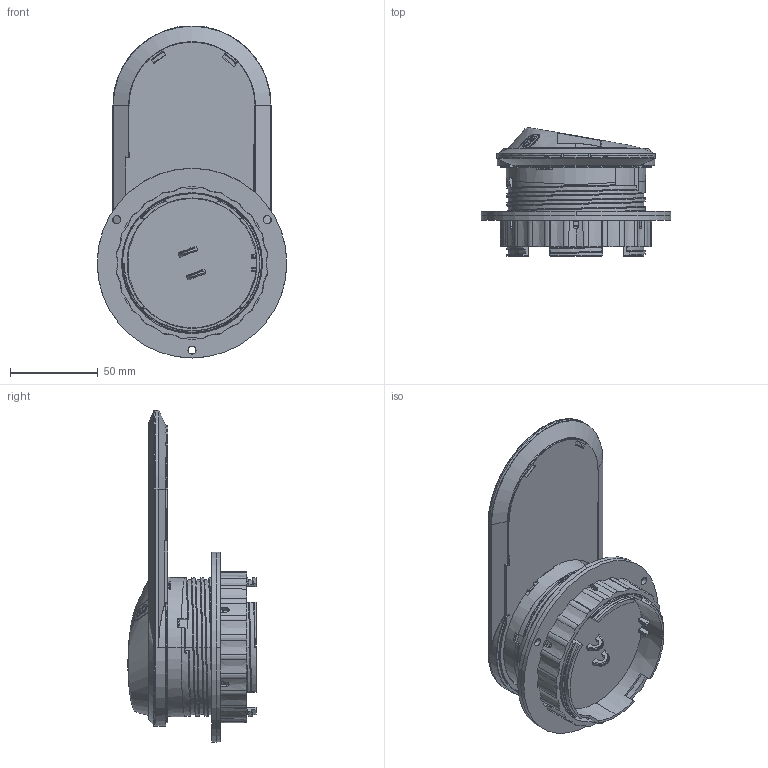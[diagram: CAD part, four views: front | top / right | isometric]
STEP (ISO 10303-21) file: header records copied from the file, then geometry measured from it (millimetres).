
FILE_DESCRIPTION (( 'STEP AP203' ), '1' );
FILE_NAME ('PixelTUF Arc_1.STEP', '2023-01-26T07:42:12', ( '' ), ( '' ), 'SwSTEP 2.0', 'SolidWorks 2021', '' );
FILE_SCHEMA (( 'CONFIG_CONTROL_DESIGN' ));
Length unit declared in the file: millimetre
Products named in the file (1): PixelTUF Arc_1
Bounding box: 108 x 72.94 x 188.98 mm (x, y, z)
Volume: 355860.3 mm3; surface area: 96020.4 mm2
Topology: 13 solids, 16 shells, 4252 faces, 11352 edges, 7274 vertices
Faces by surface type: plane 1842, cylinder 1131, bspline 825, cone 230, sphere 132, torus 92
Entity records: 200072 total; most frequent: CARTESIAN_POINT 102748, ORIENTED_EDGE 22666, DIRECTION 17128, EDGE_CURVE 11333, VERTEX_POINT 7275, AXIS2_PLACEMENT_3D 5895, LINE 5338, VECTOR 5338
